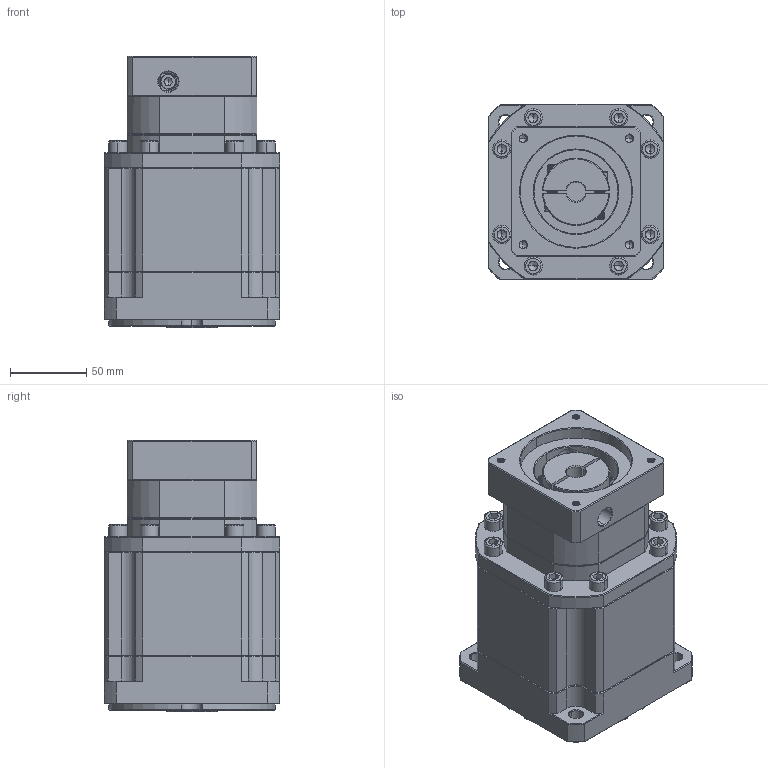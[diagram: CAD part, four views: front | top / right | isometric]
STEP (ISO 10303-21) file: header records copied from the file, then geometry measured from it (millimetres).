
FILE_DESCRIPTION (( 'STEP AP214' ), '1' );
FILE_NAME ('ZB115A-K25-L3-P2-12.7-73-69.6X69.6-M6.step', '2023-08-26T10:05:10', ( '' ), ( '' ), 'SwSTEP 2.0', 'SolidWorks 2016', '' );
FILE_SCHEMA (( 'AUTOMOTIVE_DESIGN' ));
Length unit declared in the file: millimetre
Products named in the file (1): ZB115A-K25-L3-P2-12.7-73-69.6X69.6-M6
Bounding box: 115 x 115 x 177.5 mm (x, y, z)
Volume: 1643534.3 mm3; surface area: 143982.8 mm2
Topology: 5 solids, 6 shells, 2356 faces, 6184 edges, 3930 vertices
Faces by surface type: plane 1179, bspline 418, cylinder 393, cone 351, torus 15
Entity records: 122886 total; most frequent: CARTESIAN_POINT 42293, ORIENTED_EDGE 12296, DIRECTION 9780, EDGE_CURVE 6148, VECTOR 3990, LINE 3990, VERTEX_POINT 3930, AXIS2_PLACEMENT_3D 2895
